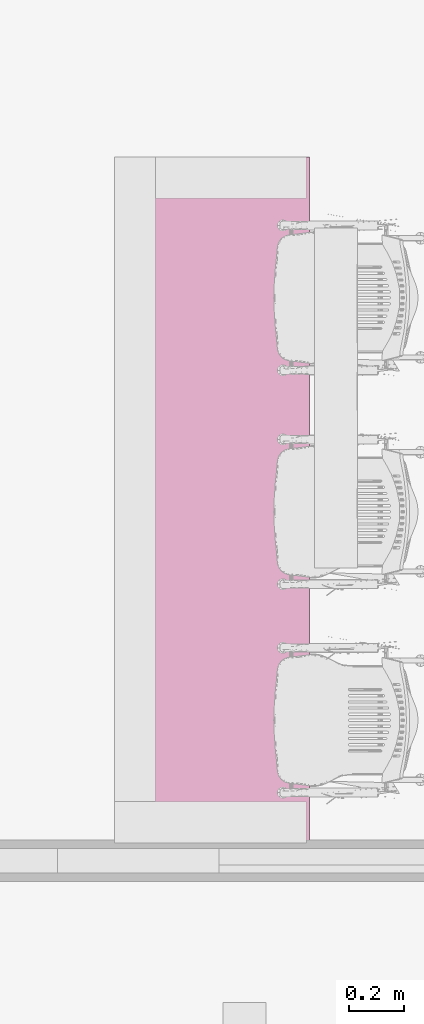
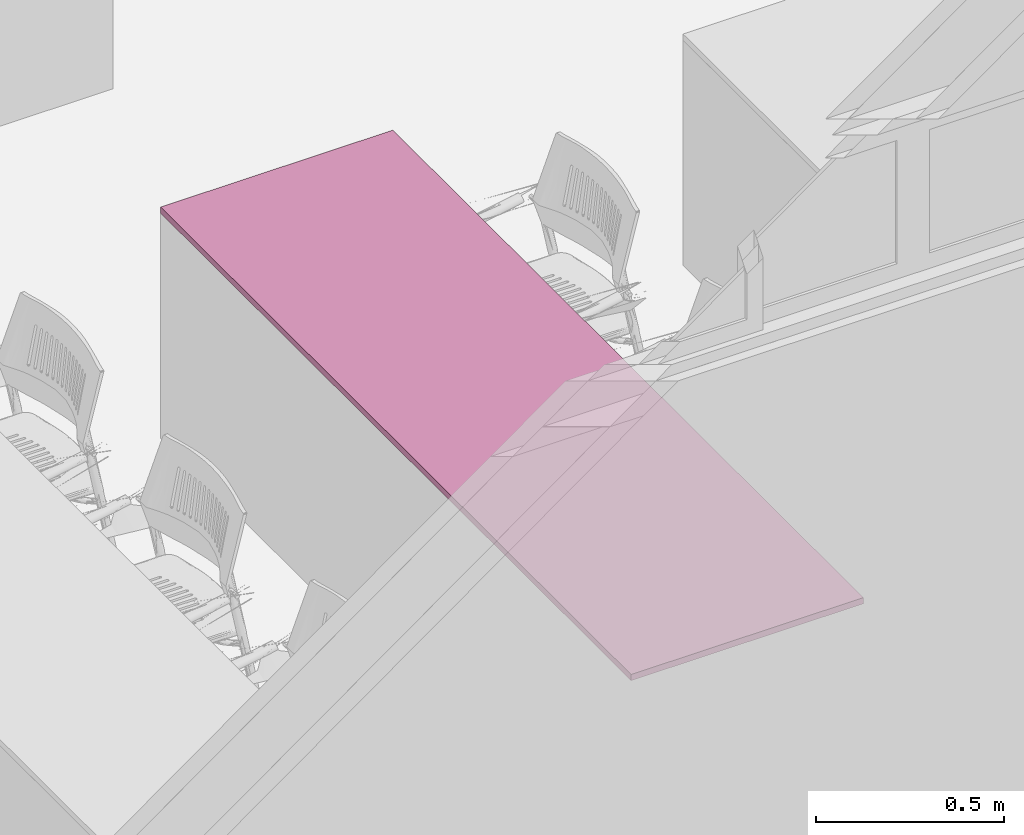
# One storey, part 144 of 155: 1 furnishing.
"""IFC2X3 building model written with IfcOpenShell, lengths in metres."""

from ifc_helpers import new_model, entity, si_unit, converted_unit, derived_unit, direction, frame, frame_2d, origin, place, context, subcontext, project, spatial, rectangle, extrude, source, transform, mapped, type_object, type_shapes, element, save


model = new_model("IFC2X3")

# Units and contexts
model_context = context("Model", 3, precision=1e-05, world=origin(), true_north=direction((6.12303176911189e-17, 1.0)))
body_context = subcontext(model_context, "Body", "Model", "MODEL_VIEW")
ifc_project = project(units=[si_unit("LENGTHUNIT", "METRE"), si_unit("AREAUNIT", "SQUARE_METRE"), si_unit("VOLUMEUNIT", "CUBIC_METRE"), converted_unit("PLANEANGLEUNIT", "DEGREE", entity("IfcRatioMeasure", 0.0174532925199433), si_unit("PLANEANGLEUNIT", "RADIAN"), dimensions=[0, 0, 0, 0, 0, 0, 0]), si_unit("MASSUNIT", "GRAM", prefix="KILO"), derived_unit("MASSDENSITYUNIT", [(si_unit("MASSUNIT", "GRAM", prefix="KILO"), 1), (si_unit("LENGTHUNIT", "METRE"), -3)]), si_unit("TIMEUNIT", "SECOND"), si_unit("FREQUENCYUNIT", "HERTZ"), si_unit("THERMODYNAMICTEMPERATUREUNIT", "DEGREE_CELSIUS"), derived_unit("THERMALTRANSMITTANCEUNIT", [(si_unit("MASSUNIT", "GRAM", prefix="KILO"), 1), (si_unit("THERMODYNAMICTEMPERATUREUNIT", "KELVIN"), -1), (si_unit("TIMEUNIT", "SECOND"), -3)]), derived_unit("VOLUMETRICFLOWRATEUNIT", [(si_unit("LENGTHUNIT", "METRE"), 3), (si_unit("TIMEUNIT", "SECOND"), -1)]), si_unit("ELECTRICCURRENTUNIT", "AMPERE"), si_unit("ELECTRICVOLTAGEUNIT", "VOLT"), si_unit("POWERUNIT", "WATT"), si_unit("FORCEUNIT", "NEWTON", prefix="KILO"), si_unit("ILLUMINANCEUNIT", "LUX"), si_unit("LUMINOUSFLUXUNIT", "LUMEN"), si_unit("LUMINOUSINTENSITYUNIT", "CANDELA"), derived_unit("USERDEFINED", [(si_unit("MASSUNIT", "GRAM", prefix="KILO"), -1), (si_unit("LENGTHUNIT", "METRE"), -2), (si_unit("TIMEUNIT", "SECOND"), 3), (si_unit("LUMINOUSFLUXUNIT", "LUMEN"), 1)]), derived_unit("LINEARVELOCITYUNIT", [(si_unit("LENGTHUNIT", "METRE"), 1), (si_unit("TIMEUNIT", "SECOND"), -1)]), si_unit("PRESSUREUNIT", "PASCAL"), derived_unit("USERDEFINED", [(si_unit("LENGTHUNIT", "METRE"), -2), (si_unit("MASSUNIT", "GRAM", prefix="KILO"), 1), (si_unit("TIMEUNIT", "SECOND"), -2)])], contexts=[model_context])

# Site, building, storey, space
site_placement = place(None, frame((26.9889013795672, -17.5624287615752, 0.0)))
site = spatial("IfcSite", under=ifc_project, at=site_placement, Name="Default", CompositionType="ELEMENT")
building_placement = place(site_placement, origin())
building = spatial("IfcBuilding", under=site, at=building_placement, Name="C. C. L. Monsenhor Antônio Sampaio", CompositionType="ELEMENT")
storey_placement = place(building_placement, frame((0.0, 0.0, 1.19999999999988)))
storey = spatial("IfcBuildingStorey", under=building, at=storey_placement, Name="Nível 1.2", CompositionType="ELEMENT", Elevation=1.19999999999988)
space_placement = place(storey_placement, origin())
space = spatial("IfcSpace", under=storey, at=space_placement, Name="89", CompositionType="ELEMENT", InteriorOrExteriorSpace="INTERNAL")

# Furnishing
furniture_type = type_object("IfcFurnitureType", Name="Bancada")
shared_shape = source(origin(), body_context, "Body", "SweptSolid", [
    extrude(rectangle(XDim=0.712499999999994, YDim=2.5, at=frame_2d((0.0, 1.11022302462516e-15), x_axis=(1.0, 0.0))), frame((7.27819770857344, -15.5130663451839, 1.92999999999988)), (0.0, 0.0, 1.0), 0.0200000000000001),
])
type_shapes(furniture_type, [shared_shape])
furnishing_placement = place(space_placement, frame((0.0, 0.0, -1.19999999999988)))
element("IfcFurnishingElement", 1, at=furnishing_placement, inside=space, type_object=furniture_type, Name="Bancada_balcao:Bancada", ObjectType="Bancada", context=body_context, shape_type="MappedRepresentation", body=[
    mapped(shared_shape, transform((0.0, 0.0, 0.0), scale=1.0)),
])

save(model, "model.ifc")
